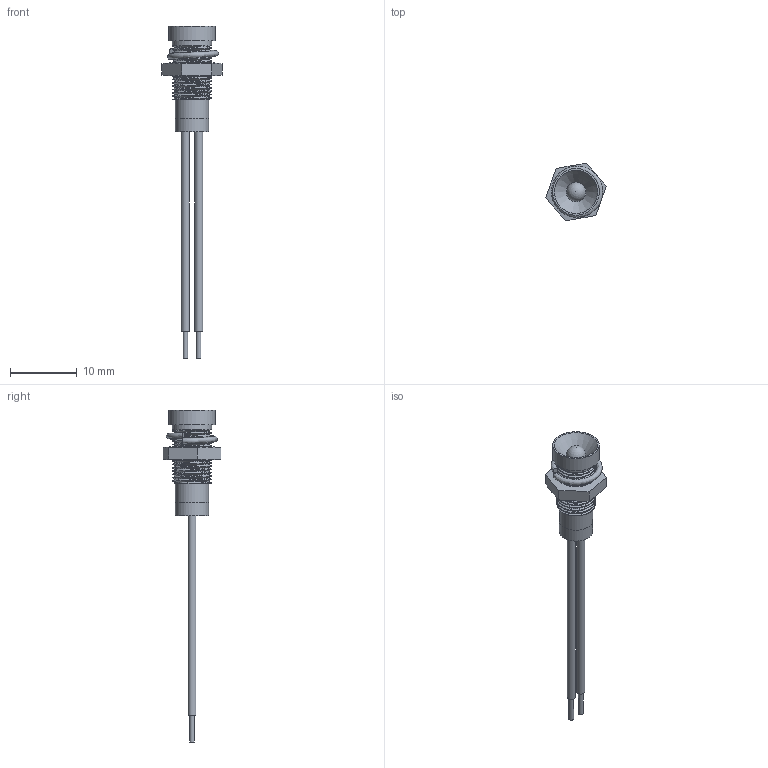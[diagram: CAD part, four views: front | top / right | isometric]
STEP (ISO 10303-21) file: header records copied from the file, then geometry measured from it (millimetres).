
FILE_DESCRIPTION(/* description */ ('AdapterTestApp'),/* implementation_level */ '2;1');
FILE_NAME(/* name */ 'Q6R7C-short 2 wires',/* time_stamp */ '2017-11-20T10:23:14+00:00',/* author */ ('AdapterTestApp'),/* organization */ ('Siemens PLM Software'),/* preprocessor_version */ 'ST-DEVELOPER v15.6',/* originating_system */ 'DEX',/* authorisation */ $);
FILE_SCHEMA (('AUTOMOTIVE_DESIGN {1 0 10303 214 3 1 1}'));
Length unit declared in the file: millimetre
Products named in the file (8): Q6R7C-short 2 wires; 14-0125; 3mmLED-1; 34-0057; 21-0025; 13-0035; wire-black-7-20.0; wire-red-7-20.0
Assembly tree (7 placements, depth 2):
  Q6R7C-short 2 wires
    14-0125
    3mmLED-1
    34-0057
    21-0025
    13-0035
    wire-black-7-20.0
    wire-red-7-20.0
Bounding box: 9.09 x 8.7 x 49.9 mm (x, y, z)
Volume: 447.3 mm3; surface area: 1464.2 mm2
Topology: 7 solids, 7 shells, 117 faces, 279 edges, 185 vertices
Faces by surface type: plane 67, cylinder 29, cone 12, bspline 6, torus 2, sphere 1
Full cylindrical faces by diameter (mm): 0.7 x4, 1.2 x2, 1.25 x2, 2.9 x1, 3 x1, 4.225 x1, 4.3 x1, 5 x2, 5.9 x1, 7 x1
Entity records: 7707 total; most frequent: CARTESIAN_POINT 5010, DIRECTION 527, ORIENTED_EDGE 492, EDGE_CURVE 246, AXIS2_PLACEMENT_3D 214, VERTEX_POINT 174, EDGE_LOOP 156, FACE_BOUND 156
